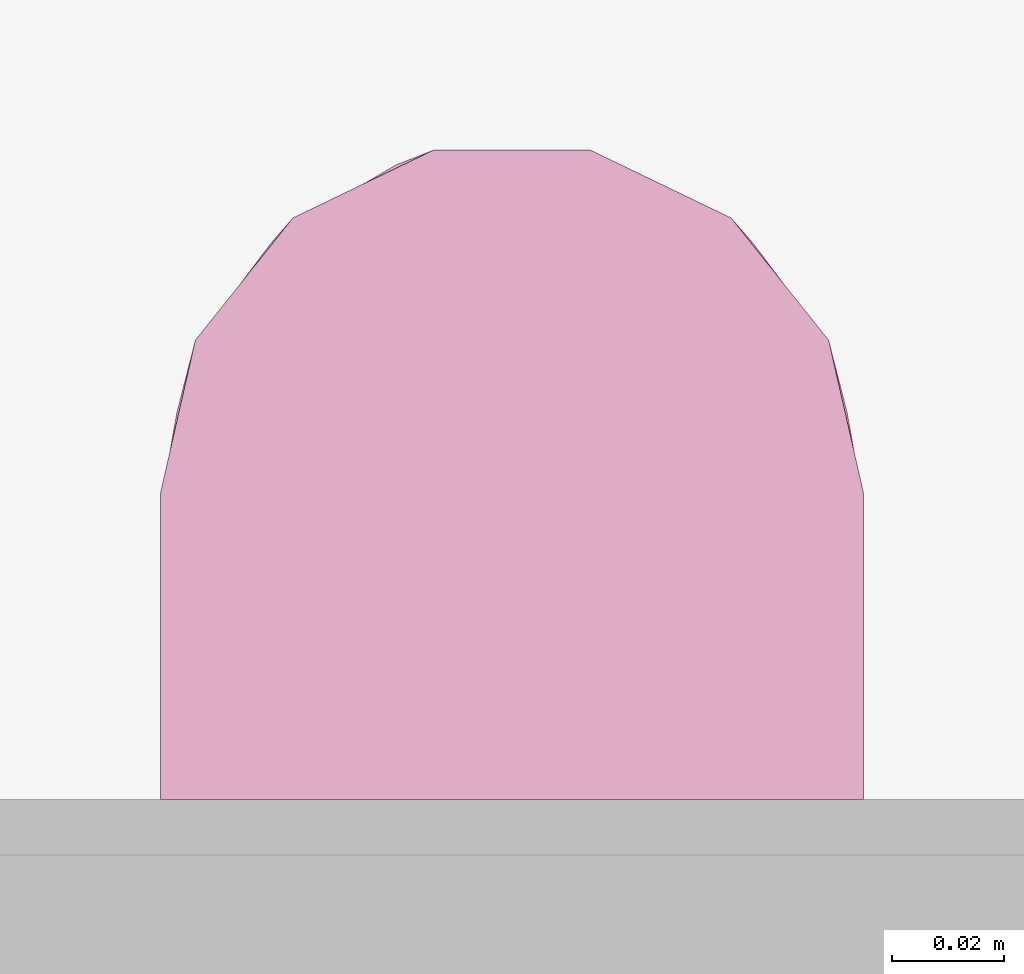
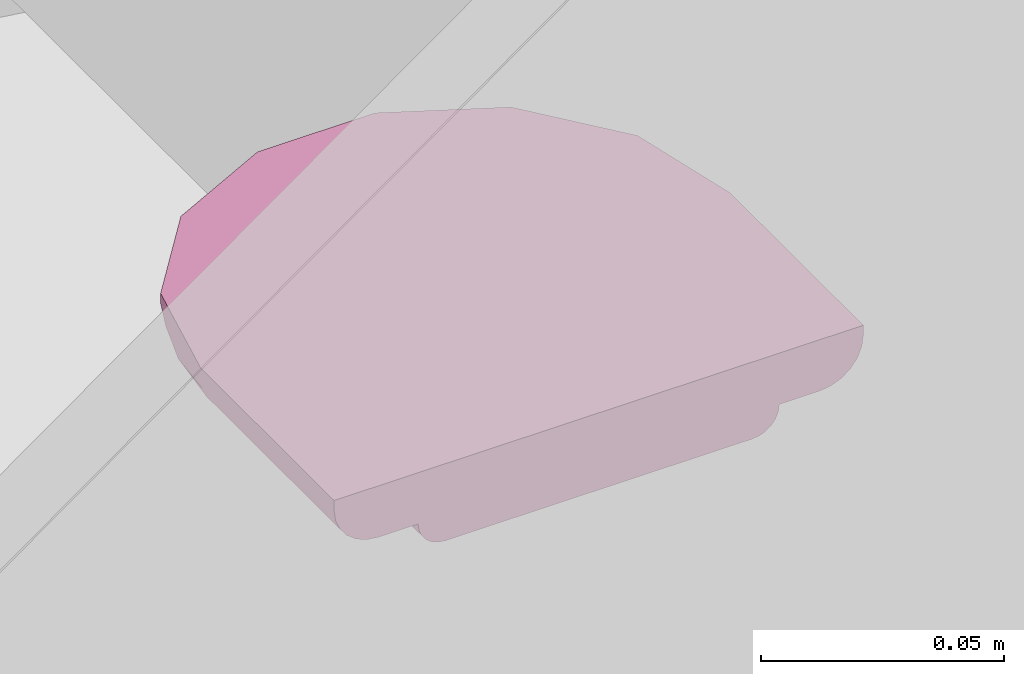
# One storey, part 44 of 47: 1 furniture element.
"""IFC4 building model written with IfcOpenShell, lengths in metres."""

from ifc_helpers import new_model, entity, si_unit, converted_unit, derived_unit, direction, frame, origin, place, context, subcontext, project, spatial, polygons, source, transform, mapped, material, type_object, type_shapes, element, save


model = new_model("IFC4")

# Units and contexts
model_context = context("Model", 3, precision=1e-05, world=origin(), true_north=direction((6.123031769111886e-17, 1.0)))
body_context = subcontext(model_context, "Body", "Model", "MODEL_VIEW")
ifc_project = project(units=[si_unit("LENGTHUNIT", "METRE"), si_unit("AREAUNIT", "SQUARE_METRE"), si_unit("VOLUMEUNIT", "CUBIC_METRE"), converted_unit("PLANEANGLEUNIT", "DEGREE", entity("IfcRatioMeasure", 0.017453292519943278), si_unit("PLANEANGLEUNIT", "RADIAN"), dimensions=[0, 0, 0, 0, 0, 0, 0]), si_unit("MASSUNIT", "GRAM", prefix="KILO"), derived_unit("MASSDENSITYUNIT", [(si_unit("MASSUNIT", "GRAM", prefix="KILO"), 1), (si_unit("LENGTHUNIT", "METRE"), -3)]), derived_unit("IONCONCENTRATIONUNIT", [(si_unit("MASSUNIT", "GRAM", prefix="KILO"), 1), (si_unit("LENGTHUNIT", "METRE"), -3)]), derived_unit("MOMENTOFINERTIAUNIT", [(si_unit("LENGTHUNIT", "METRE"), 4)]), si_unit("TIMEUNIT", "SECOND"), si_unit("FREQUENCYUNIT", "HERTZ"), si_unit("THERMODYNAMICTEMPERATUREUNIT", "DEGREE_CELSIUS"), derived_unit("THERMALTRANSMITTANCEUNIT", [(si_unit("MASSUNIT", "GRAM", prefix="KILO"), 1), (si_unit("THERMODYNAMICTEMPERATUREUNIT", "KELVIN"), -1), (si_unit("TIMEUNIT", "SECOND"), -3)]), derived_unit("THERMALCONDUCTANCEUNIT", [(si_unit("MASSUNIT", "GRAM", prefix="KILO"), 1), (si_unit("THERMODYNAMICTEMPERATUREUNIT", "KELVIN"), -1), (si_unit("TIMEUNIT", "SECOND"), -3), (si_unit("LENGTHUNIT", "METRE"), 1)]), derived_unit("VOLUMETRICFLOWRATEUNIT", [(si_unit("LENGTHUNIT", "METRE"), 3), (si_unit("TIMEUNIT", "SECOND"), -1)]), derived_unit("MASSFLOWRATEUNIT", [(si_unit("MASSUNIT", "GRAM", prefix="KILO"), 1), (si_unit("TIMEUNIT", "SECOND"), -1)]), derived_unit("ROTATIONALFREQUENCYUNIT", [(si_unit("TIMEUNIT", "SECOND"), -1)]), si_unit("ELECTRICCURRENTUNIT", "AMPERE"), si_unit("ELECTRICVOLTAGEUNIT", "VOLT"), si_unit("POWERUNIT", "WATT"), si_unit("FORCEUNIT", "NEWTON", prefix="KILO"), si_unit("ILLUMINANCEUNIT", "LUX"), si_unit("LUMINOUSFLUXUNIT", "LUMEN"), si_unit("LUMINOUSINTENSITYUNIT", "CANDELA"), derived_unit("USERDEFINED", [(si_unit("MASSUNIT", "GRAM", prefix="KILO"), -1), (si_unit("LENGTHUNIT", "METRE"), -2), (si_unit("TIMEUNIT", "SECOND"), 3), (si_unit("LUMINOUSFLUXUNIT", "LUMEN"), 1)]), derived_unit("USERDEFINED", [(si_unit("MASSUNIT", "GRAM", prefix="KILO"), 1), (si_unit("TIMEUNIT", "SECOND"), -3), (si_unit("LENGTHUNIT", "METRE"), 3), (si_unit("ELECTRICCURRENTUNIT", "AMPERE"), -2)]), derived_unit("SOUNDPOWERUNIT", [(si_unit("MASSUNIT", "GRAM", prefix="KILO"), 1), (si_unit("TIMEUNIT", "SECOND"), -3), (si_unit("LENGTHUNIT", "METRE"), 2)]), derived_unit("SOUNDPRESSUREUNIT", [(si_unit("MASSUNIT", "GRAM", prefix="KILO"), 1), (si_unit("LENGTHUNIT", "METRE"), -1), (si_unit("TIMEUNIT", "SECOND"), -2)]), derived_unit("LINEARVELOCITYUNIT", [(si_unit("LENGTHUNIT", "METRE"), 1), (si_unit("TIMEUNIT", "SECOND"), -1)]), si_unit("PRESSUREUNIT", "PASCAL"), derived_unit("USERDEFINED", [(si_unit("MASSUNIT", "GRAM", prefix="KILO"), 1), (si_unit("LENGTHUNIT", "METRE"), -2), (si_unit("TIMEUNIT", "SECOND"), -2)]), derived_unit("LINEARFORCEUNIT", [(si_unit("MASSUNIT", "GRAM", prefix="KILO"), 1), (si_unit("TIMEUNIT", "SECOND"), -2)]), derived_unit("PLANARFORCEUNIT", [(si_unit("MASSUNIT", "GRAM", prefix="KILO"), 1), (si_unit("LENGTHUNIT", "METRE"), -1), (si_unit("TIMEUNIT", "SECOND"), -2)]), derived_unit("SPECIFICHEATCAPACITYUNIT", [(si_unit("THERMODYNAMICTEMPERATUREUNIT", "KELVIN"), -1), (si_unit("LENGTHUNIT", "METRE"), 2), (si_unit("TIMEUNIT", "SECOND"), -2)]), derived_unit("HEATINGVALUEUNIT", [(si_unit("LENGTHUNIT", "METRE"), 2), (si_unit("TIMEUNIT", "SECOND"), -2)]), derived_unit("VAPORPERMEABILITYUNIT", [(si_unit("LENGTHUNIT", "METRE"), -1), (si_unit("TIMEUNIT", "SECOND"), 1)]), derived_unit("DYNAMICVISCOSITYUNIT", [(si_unit("MASSUNIT", "GRAM", prefix="KILO"), 1), (si_unit("TIMEUNIT", "SECOND"), -1), (si_unit("LENGTHUNIT", "METRE"), -1)]), derived_unit("THERMALEXPANSIONCOEFFICIENTUNIT", [(si_unit("THERMODYNAMICTEMPERATUREUNIT", "KELVIN"), -1)]), derived_unit("MODULUSOFELASTICITYUNIT", [(si_unit("MASSUNIT", "GRAM", prefix="KILO"), 1), (si_unit("LENGTHUNIT", "METRE"), -1), (si_unit("TIMEUNIT", "SECOND"), -2)]), derived_unit("ISOTHERMALMOISTURECAPACITYUNIT", [(si_unit("LENGTHUNIT", "METRE"), 3), (si_unit("MASSUNIT", "GRAM", prefix="KILO"), -1)]), derived_unit("MOISTUREDIFFUSIVITYUNIT", [(si_unit("TIMEUNIT", "SECOND"), -1), (si_unit("LENGTHUNIT", "METRE"), 2)])], contexts=[model_context])

# Site, building, storey, space
site_placement = place(None, origin())
site = spatial("IfcSite", under=ifc_project, at=site_placement, Name="Default", CompositionType="ELEMENT")
building_placement = place(site_placement, origin())
building = spatial("IfcBuilding", under=site, at=building_placement, CompositionType="ELEMENT")
storey_placement = place(building_placement, frame((0.0, 0.0, 11.750000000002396)))
storey = spatial("IfcBuildingStorey", under=building, at=storey_placement, Name="Nivel 6", CompositionType="ELEMENT", Elevation=11.750000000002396)
space_placement = place(storey_placement, origin())
space = spatial("IfcSpace", under=storey, at=space_placement, Name="319", CompositionType="ELEMENT", PredefinedType="SPACE")

# Furniture
ifc_material = material(Name="CERAMICA APARATOS", Category="Materials")
furniture_type = type_object("IfcFurnitureType", Name="E2050 - Jabonera:E2050 - Jabonera - Ceramica", AssemblyPlace="NOTDEFINED", PredefinedType="NOTDEFINED", material=ifc_material)
shared_shape = source(origin(), body_context, "Body", "Tessellation", [
    polygons([(-0.05252423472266, 0.012920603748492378, -3.986425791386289e-15), (-0.04300000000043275, 0.012920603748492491, -4.002540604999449e-15), (-0.04277987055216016, 0.014592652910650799, -4.026034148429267e-15), (-0.042134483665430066, 0.01615075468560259, -4.0486715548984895e-15), (-0.04110782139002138, 0.017488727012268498, -4.068910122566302e-15), (-0.03976984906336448, 0.018515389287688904, -4.08537062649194e-15), (-0.03821174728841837, 0.019160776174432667, -4.096931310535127e-15), (-0.0365396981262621, 0.019380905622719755, -4.102804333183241e-15), (0.03653969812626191, 0.019380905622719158, -4.22645320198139e-15), (0.03821174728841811, 0.019160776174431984, -4.226238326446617e-15), (0.03976984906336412, 0.018515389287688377, -4.219950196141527e-15), (0.041107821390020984, 0.01748872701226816, -4.20801733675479e-15), (0.04213448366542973, 0.01615075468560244, -4.191252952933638e-15), (0.042779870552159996, 0.01459265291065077, -4.170799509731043e-15), (0.04300000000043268, 0.012920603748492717, -4.14805087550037e-15), (0.05252423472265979, 0.012920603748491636, -4.164165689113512e-15), (0.055235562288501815, 0.012563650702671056, -4.163817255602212e-15), (0.05776211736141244, 0.011517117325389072, -4.153620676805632e-15), (0.059931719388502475, 0.009852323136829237, -4.134270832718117e-15), (0.06159651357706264, 0.007682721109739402, -4.107086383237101e-15), (0.06264304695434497, 0.0051561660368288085, -4.073919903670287e-15), (0.06300000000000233, 0.002444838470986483, -4.037031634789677e-15), (0.06300000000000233, 9.226522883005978e-15, -4.003224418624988e-15), (-0.0630000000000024, 8.82367512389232e-15, -3.79003495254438e-15), (-0.06300000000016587, 0.002444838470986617, -3.8238421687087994e-15), (-0.06264304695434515, 0.005156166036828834, -3.8619383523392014e-15), (-0.06159651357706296, 0.007682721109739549, -3.898646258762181e-15), (-0.059931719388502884, 0.00985232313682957, -3.931464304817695e-15), (-0.05776211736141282, 0.011517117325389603, -3.958155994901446e-15), (-0.05523556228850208, 0.012563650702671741, -3.97690233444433e-15), (-0.06300000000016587, 0.0024448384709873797, 0.05500000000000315), (-0.06264304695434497, 0.005156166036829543, 0.05500000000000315), (-0.06159651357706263, 0.007682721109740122, 0.05500000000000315), (-0.0599317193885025, 0.009852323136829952, 0.05500000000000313), (-0.05776211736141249, 0.011517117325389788, 0.05500000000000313), (-0.05523556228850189, 0.012563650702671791, 0.05500000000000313), (-0.052524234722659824, 0.012920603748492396, 0.05500000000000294), (-0.0630000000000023, 9.584537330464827e-15, 0.05500000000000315), (0.06300000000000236, 9.987488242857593e-15, 0.055000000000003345), (0.05676103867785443, 1.0345736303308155e-14, 0.08233467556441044), (0.03927985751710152, 1.0593134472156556e-14, 0.1042553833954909), (0.014018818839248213, 1.0680682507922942e-14, 0.11642045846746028), (-0.014018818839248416, 1.0591040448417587e-14, 0.11642045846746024), (-0.03927985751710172, 1.0341963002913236e-14, 0.10425538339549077), (-0.05676103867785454, 9.98278301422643e-15, 0.08233467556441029), (-0.04300000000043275, 0.012920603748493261, 0.055000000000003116), (-0.042779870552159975, 0.014592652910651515, 0.055000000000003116), (-0.04213448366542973, 0.016150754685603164, 0.055000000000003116), (-0.04110782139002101, 0.017488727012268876, 0.055000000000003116), (-0.03976984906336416, 0.018515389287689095, 0.055000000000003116), (-0.03821174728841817, 0.019160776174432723, 0.055000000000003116), (-0.03653969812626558, 0.019380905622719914, 0.055000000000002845), (-0.0473227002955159, 0.012920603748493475, 0.07778941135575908), (-0.0327483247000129, 0.012920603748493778, 0.09606510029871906), (-0.011687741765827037, 0.012920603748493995, 0.10620734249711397), (0.011687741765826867, 0.012920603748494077, 0.106207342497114), (0.03274832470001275, 0.012920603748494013, 0.09606510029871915), (0.04732270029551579, 0.012920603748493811, 0.0777894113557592), (0.05252423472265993, 0.012920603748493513, 0.05500000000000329), (0.04300000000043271, 0.012920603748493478, 0.055000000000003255), (0.03723909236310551, 0.012920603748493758, 0.07650000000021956), (0.021500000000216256, 0.012920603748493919, 0.09223909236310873), (-7.613909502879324e-17, 0.012920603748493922, 0.09800000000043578), (-0.021500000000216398, 0.012920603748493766, 0.09223909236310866), (-0.03723909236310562, 0.012920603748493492, 0.07650000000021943), (-0.056761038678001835, 0.002444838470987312, 0.08233467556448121), (-0.03927985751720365, 0.002444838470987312, 0.10425538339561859), (-0.01401881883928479, 0.002444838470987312, 0.11642045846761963), (0.014018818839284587, 0.002444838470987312, 0.11642045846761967), (0.039279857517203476, 0.002444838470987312, 0.10425538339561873), (0.05676103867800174, 0.002444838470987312, 0.08233467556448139), (0.06300000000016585, 0.002444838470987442, 0.055000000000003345), (0.06264304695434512, 0.005156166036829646, 0.055000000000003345), (0.06159651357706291, 0.007682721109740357, 0.05500000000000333), (0.059931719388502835, 0.009852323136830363, 0.055000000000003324), (0.05776211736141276, 0.011517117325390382, 0.05500000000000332), (0.05523556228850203, 0.012563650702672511, 0.05500000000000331), (-0.05541537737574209, 0.00994065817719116, 0.0775884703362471), (0.05541537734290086, 0.009940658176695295, 0.07758847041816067), (-0.060688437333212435, 0.002444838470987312, 0.06512761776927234), (0.060688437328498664, 0.002444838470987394, 0.06512761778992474), (-0.06009482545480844, 0.0073735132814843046, 0.06927989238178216), (0.06009482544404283, 0.007373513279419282, 0.06927989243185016), (1.1920939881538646e-10, 0.009647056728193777, 0.11513144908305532), (-0.02296028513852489, 0.010016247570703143, 0.11017763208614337), (0.022960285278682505, 0.010016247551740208, 0.11017763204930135), (-0.0423486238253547, 0.010229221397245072, 0.09684448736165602), (0.04234862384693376, 0.010229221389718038, 0.09684448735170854), (-0.049923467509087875, 0.012920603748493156, 0.06639470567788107), (0.04992346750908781, 0.012920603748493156, 0.06639470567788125), (-0.05703578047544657, 0.0065083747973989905, 0.07976375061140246), (-0.048020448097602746, 0.002444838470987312, 0.0932950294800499), (-0.05024267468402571, 0.007894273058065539, 0.09041697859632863), (-0.04930529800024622, 0.01152280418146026, 0.08507175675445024), (-0.04320181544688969, 0.006488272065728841, 0.09973226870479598), (-0.026649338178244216, 0.002444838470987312, 0.11033792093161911), (-0.033651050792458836, 0.008354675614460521, 0.10608663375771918), (-0.033585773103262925, 0.011709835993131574, 0.10156463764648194), (-0.04003551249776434, 0.012920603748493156, 0.08692725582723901), (-0.020861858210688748, 0.0061859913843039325, 0.11371301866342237), (-0.008798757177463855, 0.006760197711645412, 0.11644307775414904), (-1.0151879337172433e-16, 0.002444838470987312, 0.11642045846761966), (-0.011582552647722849, 0.010395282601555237, 0.1132044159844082), (-8.671396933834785e-17, 0.012920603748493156, 0.10620734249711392), (0.005858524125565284, 0.012067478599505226, 0.1113613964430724), (0.011714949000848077, 0.009815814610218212, 0.11381264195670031), (0.01809843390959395, 0.006648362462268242, 0.11442472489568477), (0.026649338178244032, 0.002444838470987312, 0.11033792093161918), (0.033532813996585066, 0.007293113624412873, 0.10692394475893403), (0.03311804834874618, 0.010897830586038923, 0.10347984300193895), (0.05703578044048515, 0.006508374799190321, 0.07976375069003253), (0.0480204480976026, 0.002444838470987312, 0.09329502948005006), (0.050242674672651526, 0.007894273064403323, 0.09041697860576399), (0.04930529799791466, 0.01152280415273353, 0.08507175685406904), (0.043201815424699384, 0.006488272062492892, 0.09973226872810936), (-0.022218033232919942, 0.012920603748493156, 0.10113622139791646), (0.02221803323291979, 0.012920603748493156, 0.10113622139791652), (0.04003551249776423, 0.012920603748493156, 0.08692725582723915), (-0.05917785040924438, 0.002444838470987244, 0.07174593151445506), (-0.05988051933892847, 9.58464048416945e-15, 0.06866733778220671), (-0.04802044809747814, 9.584640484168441e-15, 0.09329502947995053), (-0.02664933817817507, 9.584640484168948e-15, 0.11033792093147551), (-1.0151879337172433e-16, 9.584640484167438e-15, 0.11642045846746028), (0.026649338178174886, 9.584640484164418e-15, 0.1103379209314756), (0.048020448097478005, 9.584640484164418e-15, 0.09329502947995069), (0.05917785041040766, 9.584600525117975e-15, 0.07174593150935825), (0.05988051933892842, 0.002444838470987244, 0.06866733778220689), (0.04277987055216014, 0.014592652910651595, 0.05500000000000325), (0.04213448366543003, 0.01615075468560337, 0.05500000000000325), (0.041107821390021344, 0.01748872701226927, 0.05500000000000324), (0.03976984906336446, 0.01851538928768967, 0.055000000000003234), (0.03821174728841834, 0.01916077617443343, 0.05500000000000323), (0.036539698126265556, 0.019380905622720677, 0.05500000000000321), (0.035294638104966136, 0.019380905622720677, 0.06445716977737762), (0.03164430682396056, 0.019380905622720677, 0.07326984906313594), (0.025837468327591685, 0.019380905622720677, 0.08083746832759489), (0.018269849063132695, 0.019380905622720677, 0.08664430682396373), (0.00945716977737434, 0.019380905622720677, 0.09029463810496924), (-6.388409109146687e-17, 0.019380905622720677, 0.09153969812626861), (-0.009457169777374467, 0.019380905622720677, 0.09029463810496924), (-0.018269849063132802, 0.019380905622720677, 0.08664430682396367), (-0.025837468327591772, 0.019380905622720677, 0.08083746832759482), (-0.031644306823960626, 0.019380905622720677, 0.07326984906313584), (-0.03529463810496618, 0.019380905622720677, 0.0644571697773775), (-0.039354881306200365, 0.01681536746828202, 0.06876876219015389), (0.039354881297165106, 0.016815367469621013, 0.0687687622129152), (-0.03969397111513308, 0.012920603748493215, 0.06733826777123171), (0.03969397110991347, 0.012920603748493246, 0.06733826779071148), (-0.029990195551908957, 0.017045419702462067, 0.0837021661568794), (0.02999019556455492, 0.017045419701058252, 0.08370216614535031), (-0.014068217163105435, 0.017293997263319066, 0.09382432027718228), (0.0140682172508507, 0.01729399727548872, 0.0938243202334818), (-0.0414288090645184, 0.016256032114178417, 0.06233060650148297), (0.04142880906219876, 0.016256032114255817, 0.06233060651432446), (-0.03509474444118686, 0.018469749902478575, 0.07387308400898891), (0.03509474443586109, 0.018469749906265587, 0.07387308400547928), (-0.022452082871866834, 0.018468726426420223, 0.08792225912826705), (-0.004758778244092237, 0.018468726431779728, 0.09456419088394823), (0.022452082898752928, 0.018468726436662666, 0.08792225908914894), (-0.010750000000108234, 0.012920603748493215, 0.09511954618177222), (-0.01649269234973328, 0.014958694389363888, 0.09435387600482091), (-0.02403627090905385, 0.015817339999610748, 0.08982450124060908), (-0.029369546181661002, 0.012920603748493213, 0.08436954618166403), (-0.005391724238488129, 0.015874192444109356, 0.09694013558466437), (0.003951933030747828, 0.017201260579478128, 0.09618908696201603), (-0.029447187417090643, 0.018870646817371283, 0.08065629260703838), (0.029447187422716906, 0.018870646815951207, 0.08065629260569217), (0.004753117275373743, 0.01891047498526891, 0.09366878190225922), (0.01247662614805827, 0.01887114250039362, 0.09200843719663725), (-0.013974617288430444, 0.018938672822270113, 0.09129118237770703), (0.021812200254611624, 0.016118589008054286, 0.09107073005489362), (-0.035603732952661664, 0.016145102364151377, 0.07753804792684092), (0.03560373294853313, 0.01614510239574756, 0.07753804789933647), (-0.0379779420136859, 0.01877351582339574, 0.06500795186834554), (0.03797794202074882, 0.018773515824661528, 0.06500795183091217), (0.029369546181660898, 0.012920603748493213, 0.08436954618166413), (0.010750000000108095, 0.012920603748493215, 0.09511954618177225)], [[[25, 26, 27, 28, 29, 30, 1, 2, 3, 4, 5, 6, 7, 8, 9, 10, 11, 12, 13, 14, 15, 16, 17, 18, 19, 20, 21, 22, 23, 24]], [[36, 37, 1, 30]], [[51, 52, 8, 7]], [[35, 36, 30, 29]], [[50, 51, 7, 6]], [[28, 34, 35, 29]], [[5, 49, 50, 6]], [[32, 33, 27, 26]], [[4, 3, 47, 48]], [[31, 32, 26, 25]], [[2, 46, 47, 3]], [[27, 33, 34, 28]], [[4, 48, 49, 5]], [[38, 31, 25, 24]], [[23, 39, 126, 40, 125, 41, 124, 42, 123, 43, 122, 44, 121, 45, 120, 38, 24]], [[59, 16, 15, 60, 148, 61, 176, 62, 177, 63, 160, 64, 163, 65, 147, 46, 2, 1, 37, 89, 53, 99, 54, 116, 55, 104, 56, 117, 57, 118, 58, 90]], [[141, 140, 139, 138, 137, 136, 135, 134, 133, 9, 8, 52, 144, 143, 142]], [[36, 35, 78]], [[79, 77, 90]], [[93, 87, 94]], [[89, 94, 53]], [[32, 31, 80]], [[80, 82, 32]], [[87, 99, 94]], [[81, 72, 73]], [[86, 107, 109]], [[54, 98, 116]], [[33, 32, 82]], [[92, 95, 93]], [[93, 94, 78]], [[82, 35, 34]], [[66, 92, 91]], [[87, 95, 97]], [[33, 82, 34]], [[82, 78, 35]], [[78, 82, 91]], [[82, 80, 119, 66]], [[91, 82, 66]], [[88, 115, 113]], [[103, 104, 55]], [[87, 93, 95]], [[106, 86, 105]], [[78, 91, 93]], [[97, 85, 98]], [[110, 118, 57]], [[79, 76, 77]], [[109, 88, 110]], [[97, 95, 67]], [[79, 90, 114]], [[84, 106, 105]], [[75, 76, 83]], [[78, 89, 36]], [[108, 107, 69]], [[79, 113, 111]], [[77, 59, 90]], [[111, 83, 79]], [[100, 68, 101]], [[76, 79, 83]], [[83, 71, 127, 81]], [[101, 102, 84]], [[73, 83, 81]], [[75, 83, 74]], [[89, 37, 36]], [[84, 103, 101]], [[103, 84, 105]], [[113, 79, 114]], [[74, 83, 73]], [[93, 91, 92]], [[78, 94, 89]], [[98, 99, 87]], [[96, 68, 100]], [[67, 95, 92]], [[97, 98, 87]], [[85, 97, 100]], [[96, 97, 67]], [[94, 99, 53]], [[55, 116, 103]], [[96, 100, 97]], [[99, 98, 54]], [[100, 101, 103]], [[85, 100, 103]], [[116, 85, 103]], [[84, 107, 106]], [[101, 68, 102]], [[103, 105, 104]], [[117, 110, 57]], [[56, 104, 105]], [[56, 105, 86]], [[106, 107, 86]], [[84, 102, 107]], [[109, 107, 108]], [[69, 107, 102]], [[70, 109, 108]], [[86, 109, 110]], [[112, 71, 111]], [[117, 86, 110]], [[118, 114, 58]], [[111, 71, 83]], [[113, 114, 88]], [[88, 109, 115]], [[113, 112, 111]], [[70, 112, 115]], [[118, 88, 114]], [[58, 114, 90]], [[113, 115, 112]], [[70, 115, 109]], [[85, 116, 98]], [[117, 56, 86]], [[88, 118, 110]], [[119, 80, 31, 38, 120, 45, 66]], [[67, 92, 66, 45, 121, 44]], [[127, 71, 40, 126, 39, 72, 81]], [[122, 43, 68, 96, 67, 44]], [[69, 102, 68, 43, 123, 42]], [[108, 69, 42, 124, 41, 70]], [[125, 40, 71, 112, 70, 41]], [[174, 144, 52]], [[168, 138, 139]], [[175, 156, 146]], [[174, 155, 144]], [[157, 141, 142]], [[162, 161, 151]], [[157, 170, 141]], [[47, 46, 147]], [[174, 145, 155]], [[134, 135, 156]], [[149, 157, 166]], [[170, 140, 141]], [[65, 145, 147]], [[150, 176, 173]], [[153, 48, 47]], [[162, 64, 161]], [[50, 49, 153]], [[164, 63, 165]], [[142, 143, 166]], [[157, 162, 151]], [[156, 150, 173]], [[175, 146, 154]], [[148, 60, 128]], [[153, 174, 50]], [[136, 159, 167]], [[51, 50, 174]], [[158, 170, 151]], [[164, 158, 151]], [[169, 165, 152]], [[146, 156, 173]], [[149, 155, 172]], [[137, 159, 136]], [[167, 135, 136]], [[154, 146, 148]], [[175, 134, 156]], [[145, 172, 155]], [[129, 154, 128]], [[169, 152, 159]], [[143, 155, 166]], [[132, 133, 175]], [[130, 131, 154]], [[153, 147, 145]], [[48, 153, 49]], [[171, 159, 152]], [[129, 130, 154]], [[131, 175, 154]], [[149, 163, 162]], [[177, 62, 171]], [[61, 148, 146]], [[139, 140, 158]], [[160, 161, 64]], [[128, 154, 148]], [[164, 161, 160]], [[143, 144, 155]], [[147, 153, 47]], [[169, 168, 165]], [[150, 156, 167]], [[171, 176, 150]], [[151, 161, 164]], [[163, 172, 65]], [[149, 162, 157]], [[163, 64, 162]], [[158, 164, 165]], [[63, 164, 160]], [[168, 139, 158]], [[165, 177, 152]], [[142, 166, 157]], [[149, 166, 155]], [[135, 167, 156]], [[150, 167, 159]], [[169, 138, 168]], [[165, 168, 158]], [[169, 137, 138]], [[137, 169, 159]], [[140, 170, 158]], [[151, 170, 157]], [[159, 171, 150]], [[177, 165, 63]], [[149, 172, 163]], [[172, 145, 65]], [[173, 61, 146]], [[152, 177, 171]], [[153, 145, 174]], [[51, 174, 52]], [[134, 175, 133]], [[132, 175, 131]], [[61, 173, 176]], [[176, 171, 62]], [[17, 16, 59, 77]], [[10, 9, 133, 132]], [[18, 17, 77, 76]], [[11, 10, 132, 131]], [[75, 19, 18, 76]], [[130, 12, 11, 131]], [[21, 20, 74, 73]], [[129, 128, 14, 13]], [[22, 21, 73, 72]], [[60, 15, 14, 128]], [[74, 20, 19, 75]], [[129, 13, 12, 130]], [[22, 72, 39, 23]]], closed=True),
])
type_shapes(furniture_type, [shared_shape])
furniture_placement = place(space_placement, frame((3.1975010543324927, -6.355000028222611, 1.249999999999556), z_axis=(0.0, 1.0, 0.0), x_axis=(1.0, 0.0, 0.0)))
element("IfcFurniture", 1, at=furniture_placement, inside=space, type_object=furniture_type, material=ifc_material, Name="E2050 - Jabonera:E2050 - Jabonera - Ceramica", ObjectType="E2050 - Jabonera:E2050 - Jabonera - Ceramica", PredefinedType="NOTDEFINED", context=body_context, shape_type="MappedRepresentation", body=[
    mapped(shared_shape, transform((0.0, 0.0, 0.0), scale=1.0)),
])

save(model, "model.ifc")
